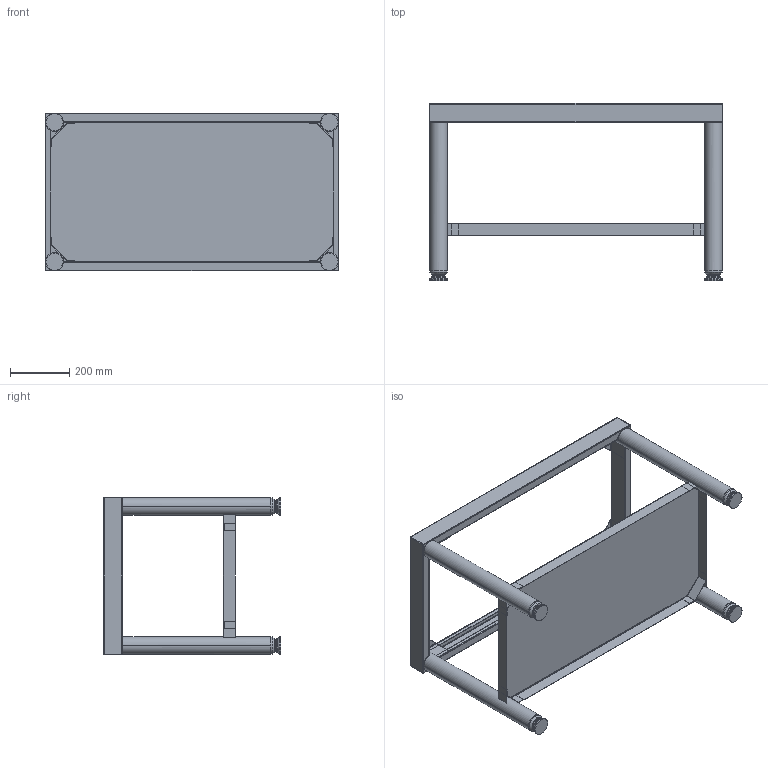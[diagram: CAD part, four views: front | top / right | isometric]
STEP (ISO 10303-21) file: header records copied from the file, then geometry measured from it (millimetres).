
FILE_DESCRIPTION((''),'2;1');
FILE_NAME('SSK1000_EXPORT_STEP','2017-11-23T',('r.avril'),(''),'PRO/ENGINEER BY PARAMETRIC TECHNOLOGY CORPORATION, 2014200','PRO/ENGINEER BY PARAMETRIC TECHNOLOGY CORPORATION, 2014200','');
FILE_SCHEMA(('AP203_CONFIGURATION_CONTROLLED_3D_DESIGN_OF_MECHANICAL_PARTS_AND_ASSEMBLIES_MIM_LF { 1 0 10303 403 2 1 2 }'));
Length unit declared in the file: millimetre
Products named in the file (1): SSK1000_EXPORT_STEP
Bounding box: 995 x 600 x 535 mm (x, y, z)
Volume: 2441353.8 mm3; surface area: 3048807.1 mm2
Topology: 14 solids, 14 shells, 383 faces, 944 edges, 584 vertices
Faces by surface type: plane 247, cylinder 88, torus 24, cone 16, sphere 8
Entity records: 12338 total; most frequent: CARTESIAN_POINT 2125, DIRECTION 1993, ORIENTED_EDGE 1888, EDGE_CURVE 944, AXIS2_PLACEMENT_3D 691, VECTOR 608, LINE 608, VERTEX_POINT 584
